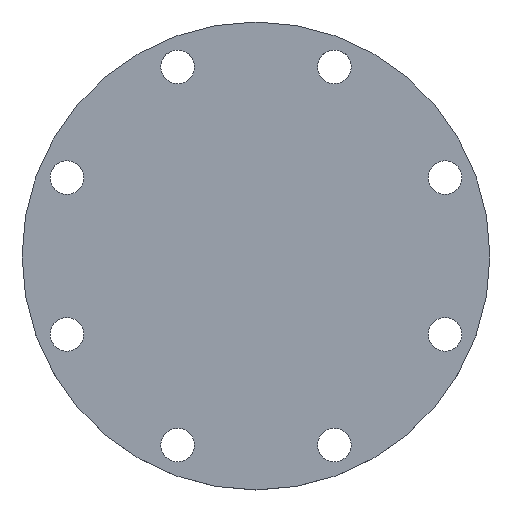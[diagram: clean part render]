
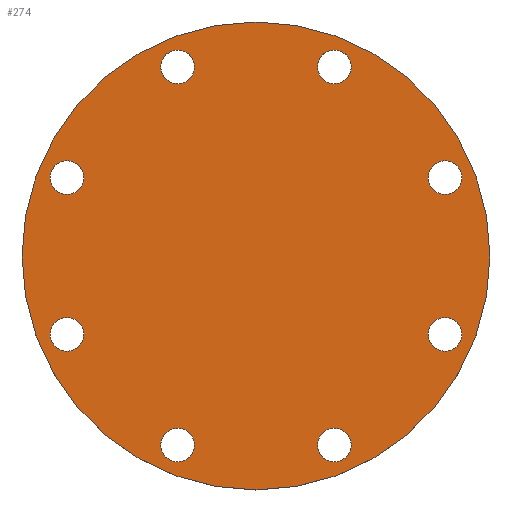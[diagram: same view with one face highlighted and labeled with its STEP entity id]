
A CAD part, top view. The second image highlights one B-rep face of the part: STEP entity #274.
In plain terms, the highlighted planar face has unit normal (0, 0, 1).
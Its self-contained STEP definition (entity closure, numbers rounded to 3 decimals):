
#15=FACE_BOUND('',#54,.T.);
#16=FACE_BOUND('',#55,.T.);
#17=FACE_BOUND('',#56,.T.);
#18=FACE_BOUND('',#57,.T.);
#19=FACE_BOUND('',#58,.T.);
#20=FACE_BOUND('',#59,.T.);
#21=FACE_BOUND('',#60,.T.);
#22=FACE_BOUND('',#61,.T.);
#31=PLANE('',#333);
#42=FACE_OUTER_BOUND('',#53,.T.);
#53=EDGE_LOOP('',(#228,#229));
#54=EDGE_LOOP('',(#230,#231));
#55=EDGE_LOOP('',(#232,#233));
#56=EDGE_LOOP('',(#234,#235));
#57=EDGE_LOOP('',(#236,#237));
#58=EDGE_LOOP('',(#238,#239));
#59=EDGE_LOOP('',(#240,#241));
#60=EDGE_LOOP('',(#242,#243));
#61=EDGE_LOOP('',(#244,#245));
#89=CIRCLE('',#297,11.5);
#90=CIRCLE('',#298,11.5);
#92=CIRCLE('',#301,11.5);
#93=CIRCLE('',#302,11.5);
#95=CIRCLE('',#305,11.5);
#96=CIRCLE('',#306,11.5);
#98=CIRCLE('',#309,11.5);
#99=CIRCLE('',#310,11.5);
#101=CIRCLE('',#313,11.5);
#102=CIRCLE('',#314,11.5);
#104=CIRCLE('',#317,11.5);
#105=CIRCLE('',#318,11.5);
#107=CIRCLE('',#321,11.5);
#108=CIRCLE('',#322,11.5);
#110=CIRCLE('',#325,11.5);
#111=CIRCLE('',#326,11.5);
#113=CIRCLE('',#329,160.);
#114=CIRCLE('',#330,160.);
#117=VERTEX_POINT('',#426);
#118=VERTEX_POINT('',#427);
#120=VERTEX_POINT('',#434);
#121=VERTEX_POINT('',#435);
#123=VERTEX_POINT('',#442);
#124=VERTEX_POINT('',#443);
#126=VERTEX_POINT('',#450);
#127=VERTEX_POINT('',#451);
#129=VERTEX_POINT('',#458);
#130=VERTEX_POINT('',#459);
#132=VERTEX_POINT('',#466);
#133=VERTEX_POINT('',#467);
#135=VERTEX_POINT('',#474);
#136=VERTEX_POINT('',#475);
#138=VERTEX_POINT('',#482);
#139=VERTEX_POINT('',#483);
#141=VERTEX_POINT('',#490);
#142=VERTEX_POINT('',#491);
#145=EDGE_CURVE('',#117,#118,#89,.T.);
#146=EDGE_CURVE('',#118,#117,#90,.T.);
#149=EDGE_CURVE('',#120,#121,#92,.T.);
#150=EDGE_CURVE('',#121,#120,#93,.T.);
#153=EDGE_CURVE('',#123,#124,#95,.T.);
#154=EDGE_CURVE('',#124,#123,#96,.T.);
#157=EDGE_CURVE('',#126,#127,#98,.T.);
#158=EDGE_CURVE('',#127,#126,#99,.T.);
#161=EDGE_CURVE('',#129,#130,#101,.T.);
#162=EDGE_CURVE('',#130,#129,#102,.T.);
#165=EDGE_CURVE('',#132,#133,#104,.T.);
#166=EDGE_CURVE('',#133,#132,#105,.T.);
#169=EDGE_CURVE('',#135,#136,#107,.T.);
#170=EDGE_CURVE('',#136,#135,#108,.T.);
#173=EDGE_CURVE('',#138,#139,#110,.T.);
#174=EDGE_CURVE('',#139,#138,#111,.T.);
#177=EDGE_CURVE('',#141,#142,#113,.T.);
#178=EDGE_CURVE('',#142,#141,#114,.T.);
#228=ORIENTED_EDGE('',*,*,#177,.T.);
#229=ORIENTED_EDGE('',*,*,#178,.T.);
#230=ORIENTED_EDGE('',*,*,#145,.T.);
#231=ORIENTED_EDGE('',*,*,#146,.T.);
#232=ORIENTED_EDGE('',*,*,#149,.T.);
#233=ORIENTED_EDGE('',*,*,#150,.T.);
#234=ORIENTED_EDGE('',*,*,#153,.T.);
#235=ORIENTED_EDGE('',*,*,#154,.T.);
#236=ORIENTED_EDGE('',*,*,#157,.T.);
#237=ORIENTED_EDGE('',*,*,#158,.T.);
#238=ORIENTED_EDGE('',*,*,#161,.T.);
#239=ORIENTED_EDGE('',*,*,#162,.T.);
#240=ORIENTED_EDGE('',*,*,#165,.T.);
#241=ORIENTED_EDGE('',*,*,#166,.T.);
#242=ORIENTED_EDGE('',*,*,#169,.T.);
#243=ORIENTED_EDGE('',*,*,#170,.T.);
#244=ORIENTED_EDGE('',*,*,#173,.T.);
#245=ORIENTED_EDGE('',*,*,#174,.T.);
#274=ADVANCED_FACE('',(#42,#15,#16,#17,#18,#19,#20,#21,#22),#31,.T.);
#297=AXIS2_PLACEMENT_3D('',#428,#339,#340);
#298=AXIS2_PLACEMENT_3D('',#429,#341,#342);
#301=AXIS2_PLACEMENT_3D('',#436,#348,#349);
#302=AXIS2_PLACEMENT_3D('',#437,#350,#351);
#305=AXIS2_PLACEMENT_3D('',#444,#357,#358);
#306=AXIS2_PLACEMENT_3D('',#445,#359,#360);
#309=AXIS2_PLACEMENT_3D('',#452,#366,#367);
#310=AXIS2_PLACEMENT_3D('',#453,#368,#369);
#313=AXIS2_PLACEMENT_3D('',#460,#375,#376);
#314=AXIS2_PLACEMENT_3D('',#461,#377,#378);
#317=AXIS2_PLACEMENT_3D('',#468,#384,#385);
#318=AXIS2_PLACEMENT_3D('',#469,#386,#387);
#321=AXIS2_PLACEMENT_3D('',#476,#393,#394);
#322=AXIS2_PLACEMENT_3D('',#477,#395,#396);
#325=AXIS2_PLACEMENT_3D('',#484,#402,#403);
#326=AXIS2_PLACEMENT_3D('',#485,#404,#405);
#329=AXIS2_PLACEMENT_3D('',#492,#411,#412);
#330=AXIS2_PLACEMENT_3D('',#493,#413,#414);
#333=AXIS2_PLACEMENT_3D('',#499,#420,#421);
#339=DIRECTION('center_axis',(0.,0.,-1.));
#340=DIRECTION('ref_axis',(0.707,-0.707,0.));
#341=DIRECTION('center_axis',(0.,0.,-1.));
#342=DIRECTION('ref_axis',(0.707,-0.707,0.));
#348=DIRECTION('center_axis',(0.,0.,-1.));
#349=DIRECTION('ref_axis',(0.,-1.,0.));
#350=DIRECTION('center_axis',(0.,0.,-1.));
#351=DIRECTION('ref_axis',(0.,-1.,0.));
#357=DIRECTION('center_axis',(0.,0.,-1.));
#358=DIRECTION('ref_axis',(-0.707,-0.707,0.));
#359=DIRECTION('center_axis',(0.,0.,-1.));
#360=DIRECTION('ref_axis',(-0.707,-0.707,0.));
#366=DIRECTION('center_axis',(0.,0.,-1.));
#367=DIRECTION('ref_axis',(-1.,0.,0.));
#368=DIRECTION('center_axis',(0.,0.,-1.));
#369=DIRECTION('ref_axis',(-1.,0.,0.));
#375=DIRECTION('center_axis',(0.,0.,-1.));
#376=DIRECTION('ref_axis',(-0.707,0.707,0.));
#377=DIRECTION('center_axis',(0.,0.,-1.));
#378=DIRECTION('ref_axis',(-0.707,0.707,0.));
#384=DIRECTION('center_axis',(0.,0.,-1.));
#385=DIRECTION('ref_axis',(0.,1.,0.));
#386=DIRECTION('center_axis',(0.,0.,-1.));
#387=DIRECTION('ref_axis',(0.,1.,0.));
#393=DIRECTION('center_axis',(0.,0.,-1.));
#394=DIRECTION('ref_axis',(0.707,0.707,0.));
#395=DIRECTION('center_axis',(0.,0.,-1.));
#396=DIRECTION('ref_axis',(0.707,0.707,0.));
#402=DIRECTION('center_axis',(0.,0.,-1.));
#403=DIRECTION('ref_axis',(1.,0.,0.));
#404=DIRECTION('center_axis',(0.,0.,-1.));
#405=DIRECTION('ref_axis',(1.,0.,0.));
#411=DIRECTION('center_axis',(0.,0.,1.));
#412=DIRECTION('ref_axis',(1.,0.,0.));
#413=DIRECTION('center_axis',(0.,0.,1.));
#414=DIRECTION('ref_axis',(1.,0.,0.));
#420=DIRECTION('center_axis',(0.,0.,1.));
#421=DIRECTION('ref_axis',(1.,0.,0.));
#426=CARTESIAN_POINT('',(61.707,121.211,20.));
#427=CARTESIAN_POINT('',(45.444,137.475,20.));
#428=CARTESIAN_POINT('Origin',(53.576,129.343,20.));
#429=CARTESIAN_POINT('Origin',(53.576,129.343,20.));
#434=CARTESIAN_POINT('',(129.343,42.076,20.));
#435=CARTESIAN_POINT('',(129.343,65.076,20.));
#436=CARTESIAN_POINT('Origin',(129.343,53.576,20.));
#437=CARTESIAN_POINT('Origin',(129.343,53.576,20.));
#442=CARTESIAN_POINT('',(121.211,-61.707,20.));
#443=CARTESIAN_POINT('',(137.475,-45.444,20.));
#444=CARTESIAN_POINT('Origin',(129.343,-53.576,20.));
#445=CARTESIAN_POINT('Origin',(129.343,-53.576,20.));
#450=CARTESIAN_POINT('',(42.076,-129.343,20.));
#451=CARTESIAN_POINT('',(65.076,-129.343,20.));
#452=CARTESIAN_POINT('Origin',(53.576,-129.343,20.));
#453=CARTESIAN_POINT('Origin',(53.576,-129.343,20.));
#458=CARTESIAN_POINT('',(-61.707,-121.211,20.));
#459=CARTESIAN_POINT('',(-45.444,-137.475,20.));
#460=CARTESIAN_POINT('Origin',(-53.576,-129.343,20.));
#461=CARTESIAN_POINT('Origin',(-53.576,-129.343,20.));
#466=CARTESIAN_POINT('',(-129.343,-42.076,20.));
#467=CARTESIAN_POINT('',(-129.343,-65.076,20.));
#468=CARTESIAN_POINT('Origin',(-129.343,-53.576,20.));
#469=CARTESIAN_POINT('Origin',(-129.343,-53.576,20.));
#474=CARTESIAN_POINT('',(-121.211,61.707,20.));
#475=CARTESIAN_POINT('',(-137.475,45.444,20.));
#476=CARTESIAN_POINT('Origin',(-129.343,53.576,20.));
#477=CARTESIAN_POINT('Origin',(-129.343,53.576,20.));
#482=CARTESIAN_POINT('',(-42.076,129.343,20.));
#483=CARTESIAN_POINT('',(-65.076,129.343,20.));
#484=CARTESIAN_POINT('Origin',(-53.576,129.343,20.));
#485=CARTESIAN_POINT('Origin',(-53.576,129.343,20.));
#490=CARTESIAN_POINT('',(160.,0.,20.));
#491=CARTESIAN_POINT('',(-160.,0.,20.));
#492=CARTESIAN_POINT('Origin',(0.,0.,20.));
#493=CARTESIAN_POINT('Origin',(0.,0.,20.));
#499=CARTESIAN_POINT('Origin',(0.,0.,20.));
